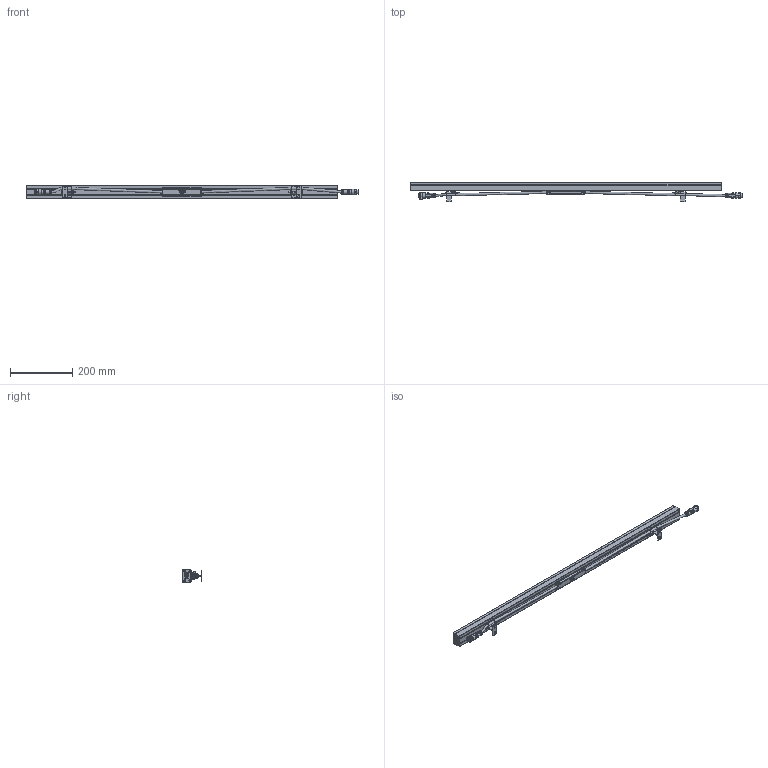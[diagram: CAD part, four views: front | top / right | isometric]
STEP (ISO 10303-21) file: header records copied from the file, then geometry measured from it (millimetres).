
FILE_DESCRIPTION (( 'STEP AP214' ), '1' );
FILE_NAME ('Linear G36 - L1000 36 LEDs.STEP', '2025-08-21T12:28:33', ( '' ), ( '' ), 'SwSTEP 2.0', 'SolidWorks 2025', '' );
FILE_SCHEMA (( 'AUTOMOTIVE_DESIGN' ));
Length unit declared in the file: millimetre
Products named in the file (7): M16 5p Female; Linear G36 - L1000 36 LEDs; Linear G36 - Bracket bottom; Linear G36 - Body_L1000. 36 LEDs; Linear G36 - Bracket topside; Part23^Linear G36_L1000; M16 5p Male
Assembly tree (8 placements, depth 2):
  Linear G36 - L1000 36 LEDs
    Linear G36 - Body_L1000. 36 LEDs
    Linear G36 - Bracket bottom  x2
    Linear G36 - Bracket topside  x2
    M16 5p Male
    M16 5p Female
    Part23^Linear G36_L1000
Bounding box: 1065.3 x 63.5 x 42 mm (x, y, z)
Volume: 1253088.7 mm3; surface area: 225195.7 mm2
Topology: 18 solids, 31 shells, 1999 faces, 4647 edges, 2736 vertices
Faces by surface type: plane 769, cylinder 585, bspline 228, cone 214, torus 181, sphere 22
Full cylindrical faces by diameter (mm): 2.7 x4, 7 x2, 9.2 x1, 11.1 x1, 14.25 x1, 14.3 x1, 18 x1, 19 x36
Entity records: 72160 total; most frequent: CARTESIAN_POINT 24597, ORIENTED_EDGE 8116, DIRECTION 7863, EDGE_CURVE 4058, AXIS2_PLACEMENT_3D 3078, VERTEX_POINT 2485, EDGE_LOOP 2059, FACE_OUTER_BOUND 1871
